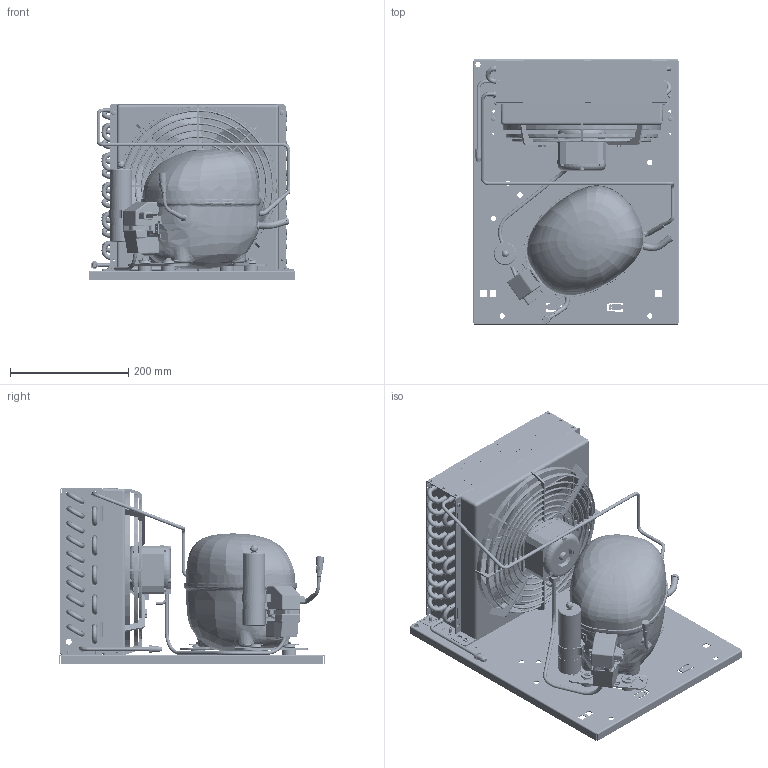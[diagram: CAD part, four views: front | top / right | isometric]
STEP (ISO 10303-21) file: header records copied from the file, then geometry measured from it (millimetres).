
FILE_DESCRIPTION(/* description */ ('Unknown'),/* implementation_level */ '2;1');
FILE_NAME(/* name */ '2298-0023',/* time_stamp */ '2021-12-15T09:08:48+01:00',/* author */ ('Unknown'),/* organization */ ('Unknown'),/* preprocessor_version */ 'ST-DEVELOPER v16.7',/* originating_system */ 'Solid Edge',/* authorisation */ 'Unknown');
FILE_SCHEMA (('AUTOMOTIVE_DESIGN {1 0 10303 214 3 1 1}'));
Products named in the file (33): 2298-0023; 92505122_oa_0; NF7MLX-A-CSIR-; 1130270f70; r50112006; r50112007; 2990210; r59700314; r50112001; r50004308; 99000000_piccola; cg254n; NET3T16PVN018; A254-22; 99540010; 84v1.8x35xxcopf00; 84RM10X21XXPIAF00; sc18cl-a-csr_piedino; 84a4.2x9.5xtbcf01; 84t4.8x8xxxtcca00_oa_1; 84t4.8x8xxxtcca00_oa_2; 84t4.8x8xxxtcca00_oa_3; 84t4.8x8xxxtcca00_oa_4; 99510255_Curva120°; 8351_2; 99510255_Tubo_Curva120°; 8392_A; 84dm4x3.6xxesrf00; 99000082_secop; 99000082_SECOP_F-GAS; 680063692; 2298-0023_CAVO_VENTOLA; 6803-1390
Assembly tree (78 placements, depth 3):
  2298-0023
    92505122_oa_0
    NF7MLX-A-CSIR-
    1130270f70
      r50112006
      r50112007
      2990210  x15
      r59700314  x16
      r50112001
      r50004308
      99000000_piccola
    cg254n
    NET3T16PVN018
    A254-22
    99540010  x2
    84v1.8x35xxcopf00  x4
    84RM10X21XXPIAF00  x4
    sc18cl-a-csr_piedino  x4
    84a4.2x9.5xtbcf01  x4
    84t4.8x8xxxtcca00_oa_1
    84t4.8x8xxxtcca00_oa_2
    84t4.8x8xxxtcca00_oa_3
    84t4.8x8xxxtcca00_oa_4
    99510255_Curva120°
      8351_2
      99510255_Tubo_Curva120°
      8392_A
    84dm4x3.6xxesrf00  x4
    8392_A
    99000082_secop
    99000082_SECOP_F-GAS
    680063692
    2298-0023_CAVO_VENTOLA
    6803-1390
Bounding box: 350 x 450 x 297.36 mm (x, y, z)
Volume: 5886671.1 mm3; surface area: 2321002.5 mm2
Topology: 80 solids, 84 shells, 7097 faces, 18188 edges, 11770 vertices
Faces by surface type: plane 4343, cylinder 1032, bspline 1014, torus 381, cone 304, sphere 23
Full cylindrical faces by diameter (mm): 1 x2, 1.8 x20, 2.2 x8, 2.31 x6, 2.7 x4, 3 x6, 3.2 x1, 3.242 x4, 3.4 x5, 3.5 x16, 3.6 x7, 4 x15, 4.1 x1, 4.2 x12, 4.5 x6, 4.66 x4, 4.7 x4, 4.8 x2, 5 x17, 5.4 x4, 5.5 x19, 5.9 x1, 6 x15, 6.001 x1, 6.2 x1, 6.5 x5, 6.93 x30, 7 x1, 7.33 x32, 7.428 x1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
Entity records: 303844 total; most frequent: CARTESIAN_POINT 136074, ORIENTED_EDGE 32266, DIRECTION 23217, EDGE_CURVE 16133, VERTEX_POINT 10879, FACE_BOUND 8500, EDGE_LOOP 8499, AXIS2_PLACEMENT_3D 8095
